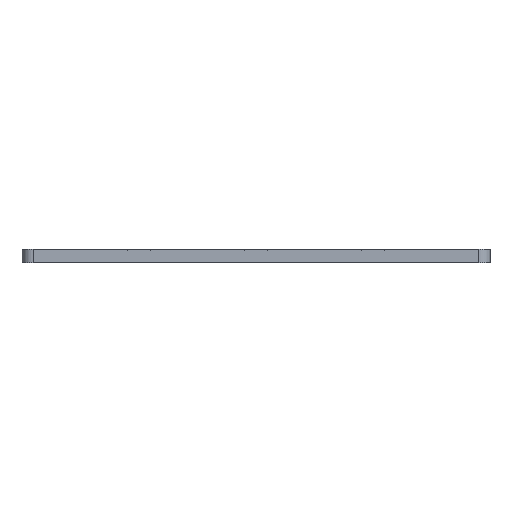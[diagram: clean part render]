
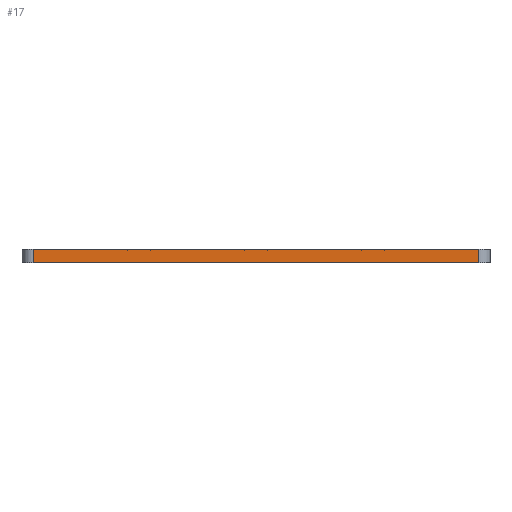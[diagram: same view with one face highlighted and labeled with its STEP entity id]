
A CAD part, left-side view. The second image highlights one B-rep face of the part: STEP entity #17.
In plain terms, the highlighted planar face has unit normal (-1, 0, 0).
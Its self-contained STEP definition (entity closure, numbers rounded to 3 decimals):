
#17 = ADVANCED_FACE('',(#18),#32,.F.);
#18 = FACE_BOUND('',#19,.F.);
#19 = EDGE_LOOP('',(#20,#55,#83,#111));
#20 = ORIENTED_EDGE('',*,*,#21,.F.);
#21 = EDGE_CURVE('',#22,#24,#26,.T.);
#22 = VERTEX_POINT('',#23);
#23 = CARTESIAN_POINT('',(-105.,-80.,4.75));
#24 = VERTEX_POINT('',#25);
#25 = CARTESIAN_POINT('',(-105.,80.,4.75));
#26 = SURFACE_CURVE('',#27,(#31,#43),.PCURVE_S1.);
#27 = LINE('',#28,#29);
#28 = CARTESIAN_POINT('',(-105.,-84.,4.75));
#29 = VECTOR('',#30,1.);
#30 = DIRECTION('',(-0.,1.,0.));
#31 = PCURVE('',#32,#37);
#32 = PLANE('',#33);
#33 = AXIS2_PLACEMENT_3D('',#34,#35,#36);
#34 = CARTESIAN_POINT('',(-105.,-84.,0.));
#35 = DIRECTION('',(1.,0.,-0.));
#36 = DIRECTION('',(0.,0.,1.));
#37 = DEFINITIONAL_REPRESENTATION('',(#38),#42);
#38 = LINE('',#39,#40);
#39 = CARTESIAN_POINT('',(4.75,0.));
#40 = VECTOR('',#41,1.);
#41 = DIRECTION('',(0.,-1.));
#42 = ( GEOMETRIC_REPRESENTATION_CONTEXT(2) 
PARAMETRIC_REPRESENTATION_CONTEXT() REPRESENTATION_CONTEXT('2D SPACE',''
  ) );
#43 = PCURVE('',#44,#49);
#44 = PLANE('',#45);
#45 = AXIS2_PLACEMENT_3D('',#46,#47,#48);
#46 = CARTESIAN_POINT('',(-105.,-84.,4.75));
#47 = DIRECTION('',(0.,0.,1.));
#48 = DIRECTION('',(1.,0.,-0.));
#49 = DEFINITIONAL_REPRESENTATION('',(#50),#54);
#50 = LINE('',#51,#52);
#51 = CARTESIAN_POINT('',(0.,0.));
#52 = VECTOR('',#53,1.);
#53 = DIRECTION('',(0.,1.));
#54 = ( GEOMETRIC_REPRESENTATION_CONTEXT(2) 
PARAMETRIC_REPRESENTATION_CONTEXT() REPRESENTATION_CONTEXT('2D SPACE',''
  ) );
#55 = ORIENTED_EDGE('',*,*,#56,.F.);
#56 = EDGE_CURVE('',#57,#22,#59,.T.);
#57 = VERTEX_POINT('',#58);
#58 = CARTESIAN_POINT('',(-105.,-80.,0.));
#59 = SURFACE_CURVE('',#60,(#64,#71),.PCURVE_S1.);
#60 = LINE('',#61,#62);
#61 = CARTESIAN_POINT('',(-105.,-80.,0.));
#62 = VECTOR('',#63,1.);
#63 = DIRECTION('',(0.,0.,1.));
#64 = PCURVE('',#32,#65);
#65 = DEFINITIONAL_REPRESENTATION('',(#66),#70);
#66 = LINE('',#67,#68);
#67 = CARTESIAN_POINT('',(0.,-4.));
#68 = VECTOR('',#69,1.);
#69 = DIRECTION('',(1.,0.));
#70 = ( GEOMETRIC_REPRESENTATION_CONTEXT(2) 
PARAMETRIC_REPRESENTATION_CONTEXT() REPRESENTATION_CONTEXT('2D SPACE',''
  ) );
#71 = PCURVE('',#72,#77);
#72 = CYLINDRICAL_SURFACE('',#73,4.);
#73 = AXIS2_PLACEMENT_3D('',#74,#75,#76);
#74 = CARTESIAN_POINT('',(-101.,-80.,0.));
#75 = DIRECTION('',(0.,0.,1.));
#76 = DIRECTION('',(-1.,-0.,0.));
#77 = DEFINITIONAL_REPRESENTATION('',(#78),#82);
#78 = LINE('',#79,#80);
#79 = CARTESIAN_POINT('',(0.,0.));
#80 = VECTOR('',#81,1.);
#81 = DIRECTION('',(0.,1.));
#82 = ( GEOMETRIC_REPRESENTATION_CONTEXT(2) 
PARAMETRIC_REPRESENTATION_CONTEXT() REPRESENTATION_CONTEXT('2D SPACE',''
  ) );
#83 = ORIENTED_EDGE('',*,*,#84,.T.);
#84 = EDGE_CURVE('',#57,#85,#87,.T.);
#85 = VERTEX_POINT('',#86);
#86 = CARTESIAN_POINT('',(-105.,80.,0.));
#87 = SURFACE_CURVE('',#88,(#92,#99),.PCURVE_S1.);
#88 = LINE('',#89,#90);
#89 = CARTESIAN_POINT('',(-105.,-84.,0.));
#90 = VECTOR('',#91,1.);
#91 = DIRECTION('',(-0.,1.,0.));
#92 = PCURVE('',#32,#93);
#93 = DEFINITIONAL_REPRESENTATION('',(#94),#98);
#94 = LINE('',#95,#96);
#95 = CARTESIAN_POINT('',(0.,0.));
#96 = VECTOR('',#97,1.);
#97 = DIRECTION('',(0.,-1.));
#98 = ( GEOMETRIC_REPRESENTATION_CONTEXT(2) 
PARAMETRIC_REPRESENTATION_CONTEXT() REPRESENTATION_CONTEXT('2D SPACE',''
  ) );
#99 = PCURVE('',#100,#105);
#100 = PLANE('',#101);
#101 = AXIS2_PLACEMENT_3D('',#102,#103,#104);
#102 = CARTESIAN_POINT('',(-105.,-84.,0.));
#103 = DIRECTION('',(0.,0.,1.));
#104 = DIRECTION('',(1.,0.,-0.));
#105 = DEFINITIONAL_REPRESENTATION('',(#106),#110);
#106 = LINE('',#107,#108);
#107 = CARTESIAN_POINT('',(0.,0.));
#108 = VECTOR('',#109,1.);
#109 = DIRECTION('',(0.,1.));
#110 = ( GEOMETRIC_REPRESENTATION_CONTEXT(2) 
PARAMETRIC_REPRESENTATION_CONTEXT() REPRESENTATION_CONTEXT('2D SPACE',''
  ) );
#111 = ORIENTED_EDGE('',*,*,#112,.T.);
#112 = EDGE_CURVE('',#85,#24,#113,.T.);
#113 = SURFACE_CURVE('',#114,(#118,#125),.PCURVE_S1.);
#114 = LINE('',#115,#116);
#115 = CARTESIAN_POINT('',(-105.,80.,0.));
#116 = VECTOR('',#117,1.);
#117 = DIRECTION('',(0.,0.,1.));
#118 = PCURVE('',#32,#119);
#119 = DEFINITIONAL_REPRESENTATION('',(#120),#124);
#120 = LINE('',#121,#122);
#121 = CARTESIAN_POINT('',(0.,-164.));
#122 = VECTOR('',#123,1.);
#123 = DIRECTION('',(1.,0.));
#124 = ( GEOMETRIC_REPRESENTATION_CONTEXT(2) 
PARAMETRIC_REPRESENTATION_CONTEXT() REPRESENTATION_CONTEXT('2D SPACE',''
  ) );
#125 = PCURVE('',#126,#131);
#126 = CYLINDRICAL_SURFACE('',#127,4.);
#127 = AXIS2_PLACEMENT_3D('',#128,#129,#130);
#128 = CARTESIAN_POINT('',(-101.,80.,0.));
#129 = DIRECTION('',(0.,0.,1.));
#130 = DIRECTION('',(-1.,-0.,0.));
#131 = DEFINITIONAL_REPRESENTATION('',(#132),#136);
#132 = LINE('',#133,#134);
#133 = CARTESIAN_POINT('',(-0.,0.));
#134 = VECTOR('',#135,1.);
#135 = DIRECTION('',(-0.,1.));
#136 = ( GEOMETRIC_REPRESENTATION_CONTEXT(2) 
PARAMETRIC_REPRESENTATION_CONTEXT() REPRESENTATION_CONTEXT('2D SPACE',''
  ) );
